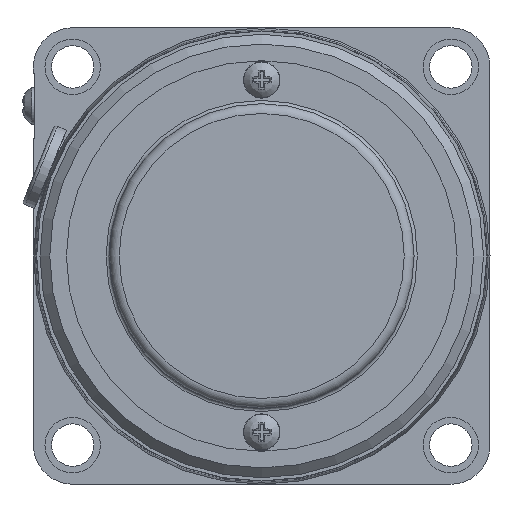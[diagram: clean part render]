
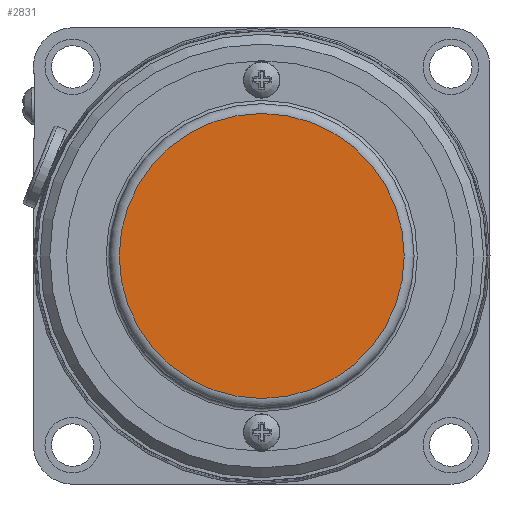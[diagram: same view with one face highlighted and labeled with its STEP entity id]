
A CAD part, left-side view. The second image highlights one B-rep face of the part: STEP entity #2831.
In plain terms, the highlighted planar face has unit normal (-1, 0, 0).
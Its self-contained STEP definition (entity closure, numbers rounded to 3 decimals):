
#295=CIRCLE('',#3096,21.85);
#436=FACE_OUTER_BOUND('',#656,.T.);
#656=EDGE_LOOP('',(#2267));
#1305=VERTEX_POINT('',#4789);
#1640=EDGE_CURVE('',#1305,#1305,#295,.T.);
#2267=ORIENTED_EDGE('',*,*,#1640,.F.);
#2508=PLANE('',#3097);
#2831=ADVANCED_FACE('',(#436),#2508,.F.);
#3096=AXIS2_PLACEMENT_3D('',#4790,#3730,#3731);
#3097=AXIS2_PLACEMENT_3D('',#4791,#3732,#3733);
#3730=DIRECTION('center_axis',(1.,0.,0.));
#3731=DIRECTION('ref_axis',(0.,0.,-1.));
#3732=DIRECTION('center_axis',(1.,0.,0.));
#3733=DIRECTION('ref_axis',(0.,0.,-1.));
#4789=CARTESIAN_POINT('',(-11.8,0.,21.85));
#4790=CARTESIAN_POINT('Origin',(-11.8,0.,0.));
#4791=CARTESIAN_POINT('Origin',(-11.8,0.,0.));
